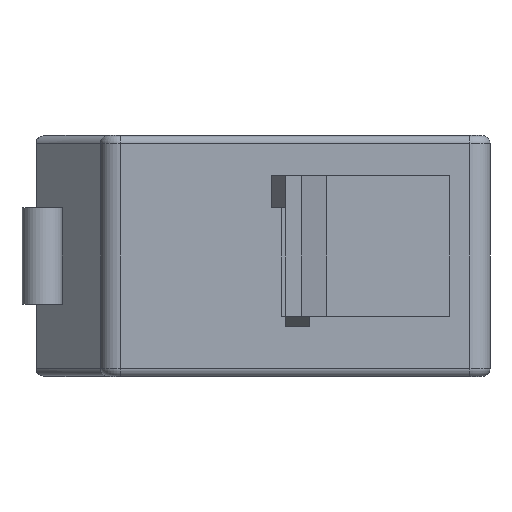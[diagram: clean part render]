
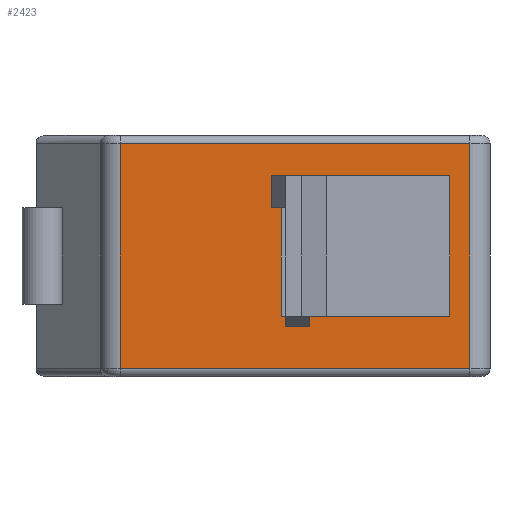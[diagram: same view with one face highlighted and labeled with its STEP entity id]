
A CAD part, left-side view. The second image highlights one B-rep face of the part: STEP entity #2423.
In plain terms, the highlighted planar face has unit normal (-1, 0, 0).
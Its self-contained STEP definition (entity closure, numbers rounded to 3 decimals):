
#15=FACE_BOUND('',#452,.T.);
#178=PLANE('',#2668);
#314=FACE_OUTER_BOUND('',#451,.T.);
#451=EDGE_LOOP('',(#2220,#2221,#2222,#2223));
#452=EDGE_LOOP('',(#2224,#2225,#2226,#2227));
#502=LINE('',#3470,#741);
#612=LINE('',#3896,#851);
#688=LINE('',#4092,#927);
#710=LINE('',#4136,#949);
#711=LINE('',#4139,#950);
#713=LINE('',#4142,#952);
#721=LINE('',#4163,#960);
#722=LINE('',#4165,#961);
#741=VECTOR('',#2744,8.7);
#851=VECTOR('',#3106,8.7);
#927=VECTOR('',#3308,4.2);
#949=VECTOR('',#3350,3.5);
#950=VECTOR('',#3353,3.5);
#952=VECTOR('',#3357,4.2);
#960=VECTOR('',#3391,5.6);
#961=VECTOR('',#3394,5.6);
#986=VERTEX_POINT('',#3462);
#988=VERTEX_POINT('',#3468);
#1106=VERTEX_POINT('',#3888);
#1108=VERTEX_POINT('',#3894);
#1164=VERTEX_POINT('',#4089);
#1165=VERTEX_POINT('',#4091);
#1177=VERTEX_POINT('',#4134);
#1178=VERTEX_POINT('',#4138);
#1213=EDGE_CURVE('',#988,#986,#502,.T.);
#1393=EDGE_CURVE('',#1108,#1106,#612,.T.);
#1495=EDGE_CURVE('',#1164,#1165,#688,.T.);
#1517=EDGE_CURVE('',#1164,#1177,#710,.T.);
#1518=EDGE_CURVE('',#1178,#1165,#711,.T.);
#1520=EDGE_CURVE('',#1177,#1178,#713,.T.);
#1528=EDGE_CURVE('',#1108,#986,#721,.T.);
#1529=EDGE_CURVE('',#1106,#988,#722,.T.);
#2220=ORIENTED_EDGE('',*,*,#1213,.F.);
#2221=ORIENTED_EDGE('',*,*,#1529,.F.);
#2222=ORIENTED_EDGE('',*,*,#1393,.F.);
#2223=ORIENTED_EDGE('',*,*,#1528,.T.);
#2224=ORIENTED_EDGE('',*,*,#1517,.T.);
#2225=ORIENTED_EDGE('',*,*,#1520,.T.);
#2226=ORIENTED_EDGE('',*,*,#1518,.T.);
#2227=ORIENTED_EDGE('',*,*,#1495,.F.);
#2423=ADVANCED_FACE('',(#314,#15),#178,.T.);
#2668=AXIS2_PLACEMENT_3D('',#4164,#3392,#3393);
#2744=DIRECTION('',(0.,-1.,0.));
#3106=DIRECTION('',(0.,1.,0.));
#3308=DIRECTION('',(0.,-1.,0.));
#3350=DIRECTION('',(0.,0.,1.));
#3353=DIRECTION('',(0.,0.,-1.));
#3357=DIRECTION('',(0.,-1.,0.));
#3391=DIRECTION('',(0.,0.,1.));
#3392=DIRECTION('center_axis',(-1.,0.,0.));
#3393=DIRECTION('ref_axis',(0.,0.,1.));
#3394=DIRECTION('',(0.,0.,1.));
#3462=CARTESIAN_POINT('',(-18.9,0.5,2.8));
#3468=CARTESIAN_POINT('',(-18.9,9.2,2.8));
#3470=CARTESIAN_POINT('',(-18.9,5.025,2.8));
#3888=CARTESIAN_POINT('',(-18.9,9.2,-2.8));
#3894=CARTESIAN_POINT('',(-18.9,0.5,-2.8));
#3896=CARTESIAN_POINT('',(-18.9,5.025,-2.8));
#4089=CARTESIAN_POINT('',(-18.9,5.2,-1.5));
#4091=CARTESIAN_POINT('',(-18.9,1.,-1.5));
#4092=CARTESIAN_POINT('',(-18.9,5.45,-1.5));
#4134=CARTESIAN_POINT('',(-18.9,5.2,2.));
#4136=CARTESIAN_POINT('',(-18.9,5.2,0.));
#4138=CARTESIAN_POINT('',(-18.9,1.,2.));
#4139=CARTESIAN_POINT('',(-18.9,1.,0.));
#4142=CARTESIAN_POINT('',(-18.9,4.307,2.));
#4163=CARTESIAN_POINT('',(-18.9,0.5,0.));
#4164=CARTESIAN_POINT('Origin',(-18.9,5.2,0.));
#4165=CARTESIAN_POINT('',(-18.9,9.2,0.));
